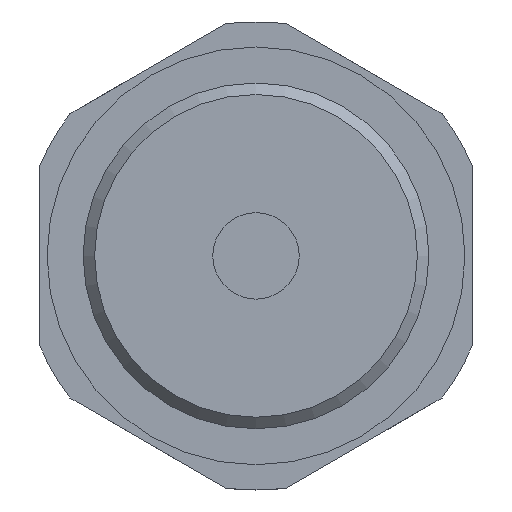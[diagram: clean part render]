
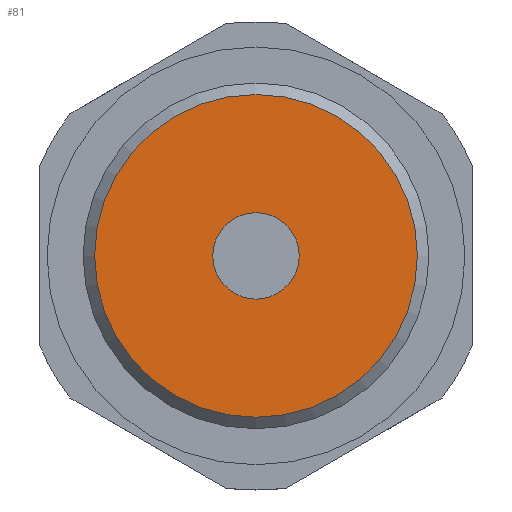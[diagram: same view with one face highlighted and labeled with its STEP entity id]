
A CAD part, front view. The second image highlights one B-rep face of the part: STEP entity #81.
In plain terms, the highlighted planar face has unit normal (0, -1, 0).
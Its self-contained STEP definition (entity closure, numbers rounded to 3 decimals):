
#81 = ADVANCED_FACE( '', ( #122, #123 ), #124, .F. );
#122 = FACE_BOUND( '', #207, .T. );
#123 = FACE_OUTER_BOUND( '', #208, .T. );
#124 = PLANE( '', #209 );
#207 = EDGE_LOOP( '', ( #316 ) );
#208 = EDGE_LOOP( '', ( #317 ) );
#209 = AXIS2_PLACEMENT_3D( '', #318, #319, #320 );
#316 = ORIENTED_EDGE( '', *, *, #504, .F. );
#317 = ORIENTED_EDGE( '', *, *, #506, .T. );
#318 = CARTESIAN_POINT( '', ( 11.2, -8., 0. ) );
#319 = DIRECTION( '', ( 0., 1., 0. ) );
#320 = DIRECTION( '', ( 0., 0., 1. ) );
#504 = EDGE_CURVE( '', #575, #575, #576, .T. );
#506 = EDGE_CURVE( '', #579, #579, #580, .T. );
#575 = VERTEX_POINT( '', #702 );
#576 = CIRCLE( '', #703, 3. );
#579 = VERTEX_POINT( '', #706 );
#580 = CIRCLE( '', #707, 11.2 );
#702 = CARTESIAN_POINT( '', ( 0., -8., -3. ) );
#703 = AXIS2_PLACEMENT_3D( '', #795, #796, #797 );
#706 = CARTESIAN_POINT( '', ( 0., -8., -11.2 ) );
#707 = AXIS2_PLACEMENT_3D( '', #801, #802, #803 );
#795 = CARTESIAN_POINT( '', ( 0., -8., 0. ) );
#796 = DIRECTION( '', ( 0., -1., 0. ) );
#797 = DIRECTION( '', ( 0., 0., -1. ) );
#801 = CARTESIAN_POINT( '', ( 0., -8., 0. ) );
#802 = DIRECTION( '', ( 0., -1., 0. ) );
#803 = DIRECTION( '', ( 0., 0., -1. ) );
